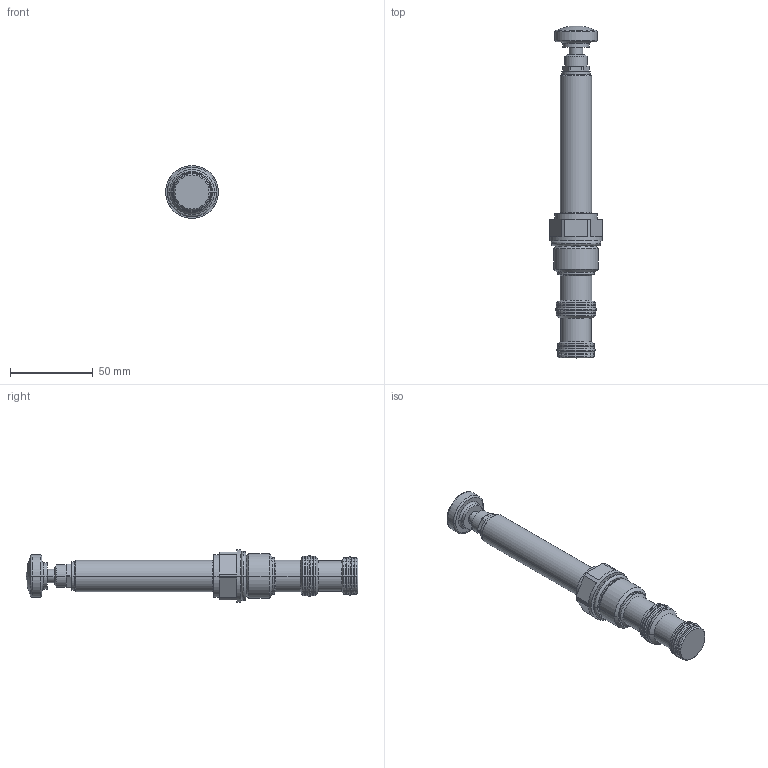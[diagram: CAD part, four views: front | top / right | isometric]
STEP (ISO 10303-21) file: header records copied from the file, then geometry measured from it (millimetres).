
FILE_DESCRIPTION((''),'2;1');
FILE_NAME('PRT0001','2009-03-02T',('JCS'),(''),'PRO/ENGINEER BY PARAMETRIC TECHNOLOGY CORPORATION, 2008010','PRO/ENGINEER BY PARAMETRIC TECHNOLOGY CORPORATION, 2008010','');
FILE_SCHEMA(('CONFIG_CONTROL_DESIGN'));
Length unit declared in the file: inch
Products named in the file (1): PRT0001
Bounding box: 31.75 x 200.2 x 31.75 mm (x, y, z)
Volume: 50789.7 mm3; surface area: 23857.6 mm2
Topology: 5 solids, 7 shells, 222 faces, 469 edges, 271 vertices
Faces by surface type: cylinder 70, plane 48, cone 44, torus 34, revolution 24, sphere 2
Entity records: 6523 total; most frequent: CARTESIAN_POINT 1618, DIRECTION 1115, ORIENTED_EDGE 934, AXIS2_PLACEMENT_3D 472, EDGE_CURVE 467, CIRCLE 274, VERTEX_POINT 271, EDGE_LOOP 240
